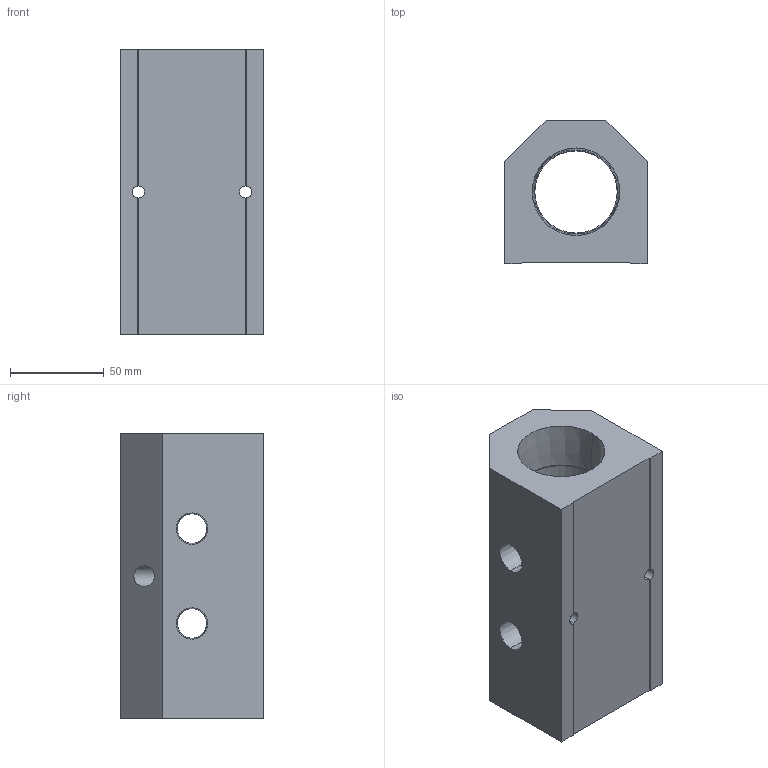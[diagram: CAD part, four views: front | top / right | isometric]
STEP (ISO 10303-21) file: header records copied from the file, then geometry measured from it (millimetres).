
FILE_DESCRIPTION (( 'STEP AP214' ), '1' );
FILE_NAME ('ALM2ACE-N6N24-152B.step', '2022-02-07T09:08:09', ( '' ), ( '' ), 'SwSTEP 2.0', 'SolidWorks 2020', '' );
FILE_SCHEMA (( 'AUTOMOTIVE_DESIGN' ));
Length unit declared in the file: millimetre
Products named in the file (1): ALM2ACE-N6N24-152B
Bounding box: 76.2 x 76.2 x 152 mm (x, y, z)
Volume: 539849.4 mm3; surface area: 76416.7 mm2
Topology: 1 solids, 1 shells, 301 faces, 801 edges, 530 vertices
Faces by surface type: plane 217, bspline 58, cone 16, cylinder 10
Entity records: 16491 total; most frequent: CARTESIAN_POINT 6407, ORIENTED_EDGE 1602, DIRECTION 1189, EDGE_CURVE 801, LINE 629, VECTOR 629, VERTEX_POINT 530, EDGE_LOOP 347
